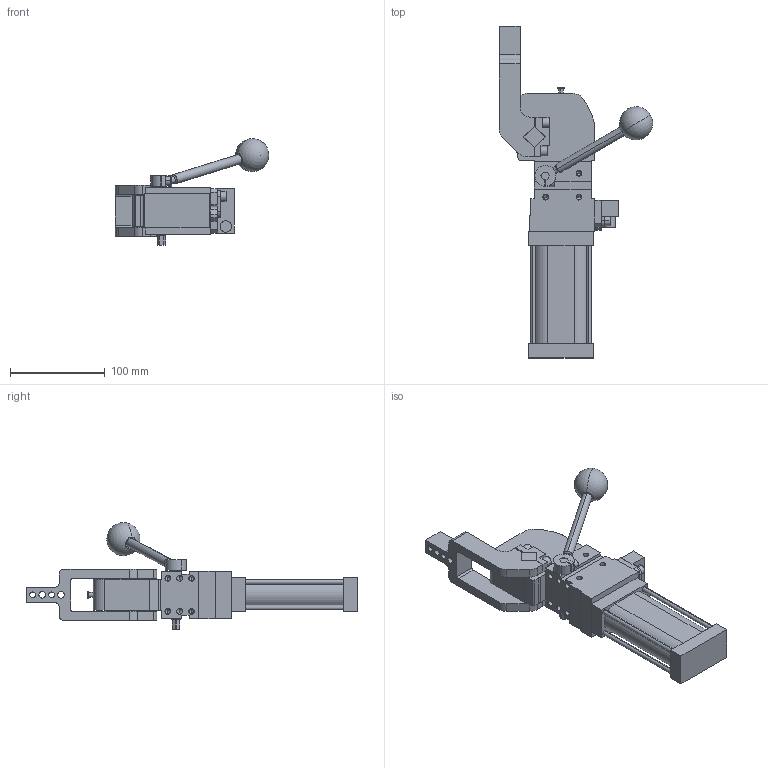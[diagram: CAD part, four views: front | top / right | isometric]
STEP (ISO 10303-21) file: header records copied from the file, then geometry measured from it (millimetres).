
FILE_DESCRIPTION (( 'STEP AP214' ), '1' );
FILE_NAME ('cplm40lah1ci1g_108.STEP', '2021-05-25T12:00:09', ( '' ), ( '' ), 'SwSTEP 2.0', 'SolidWorks 2021', '' );
FILE_SCHEMA (( 'AUTOMOTIVE_DESIGN' ));
Length unit declared in the file: millimetre
Products named in the file (6): piastra_blocchetto_cpl40; blocchetto_VEP_0_cpl40; meccanica_cplm40; cplm40lah1ci1g_108; comando_manuale_cplm_40; leva_v1c_cpl40
Assembly tree (5 placements, depth 2):
  cplm40lah1ci1g_108
    meccanica_cplm40
    leva_v1c_cpl40
    blocchetto_VEP_0_cpl40
    piastra_blocchetto_cpl40
    comando_manuale_cplm_40
Bounding box: 161.69 x 350 x 112.66 mm (x, y, z)
Volume: 807121.3 mm3; surface area: 126816 mm2
Topology: 6 solids, 6 shells, 496 faces, 1276 edges, 807 vertices
Faces by surface type: plane 287, cylinder 161, cone 46, sphere 2
Entity records: 16384 total; most frequent: CARTESIAN_POINT 2655, DIRECTION 2611, ORIENTED_EDGE 2458, EDGE_CURVE 1229, AXIS2_PLACEMENT_3D 882, LINE 847, VECTOR 847, VERTEX_POINT 804
